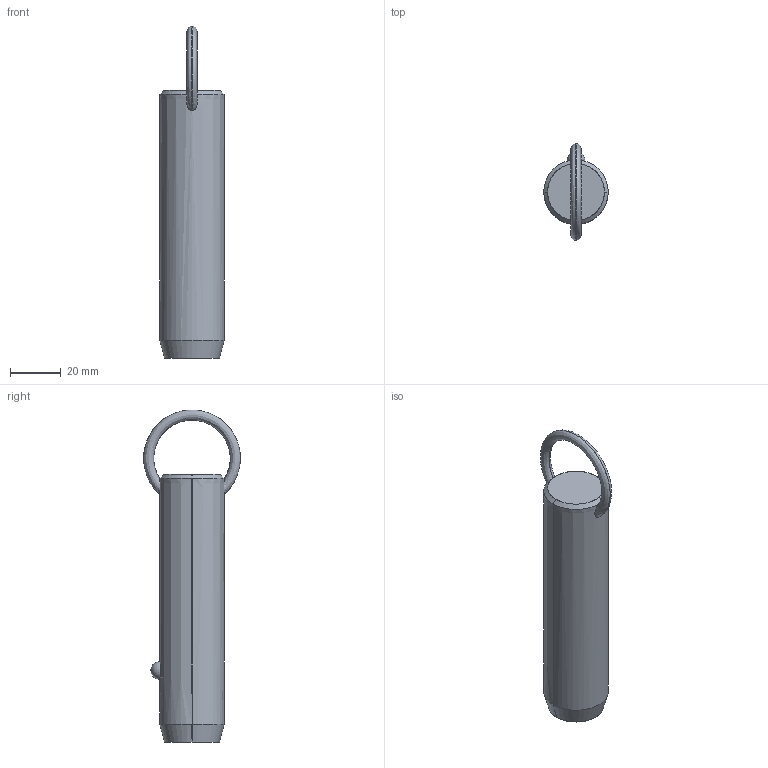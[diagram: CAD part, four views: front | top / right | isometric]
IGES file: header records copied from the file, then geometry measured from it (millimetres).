
Start section: SolidWorks IGES file using analytic representation for surfaces
Global section: file name: C:\Users\liam_\OneDrive\Documents\WORK\Work for WixRoyd\Job Files\J-00019 - Matt Davis CAD Checking\04. CAD Drawings\automotion20190605\P1250.2_v2\P1250.2_v2_20190729_IGES\P1250.100-240.igs; native system: SolidWorks 2017; preprocessor: SolidWorks 2017; author: liam_; date: 190730.173540; units: millimetre
Bounding box: 25.4 x 38.09 x 130.8 mm (x, y, z)
Surface area: 10183.9 mm2 (no closed solid volume)
Topology: 0 solids, 0 shells, 12 faces, 298 edges, 296 vertices
Faces by surface type: revolution 8, bspline 4
